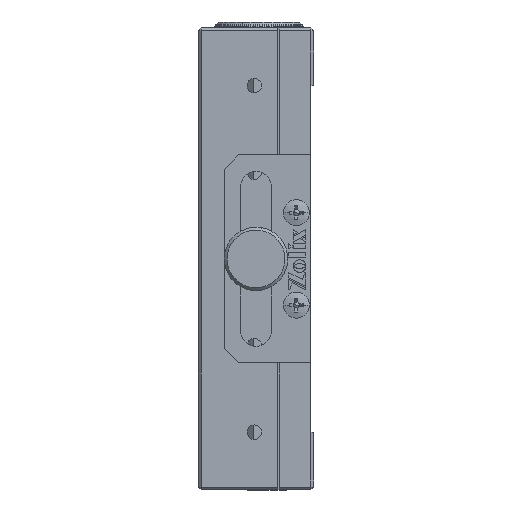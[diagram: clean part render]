
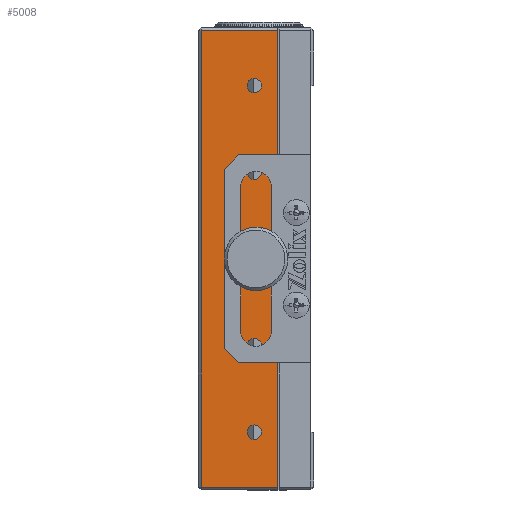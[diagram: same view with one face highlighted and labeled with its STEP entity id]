
A CAD part, left-side view. The second image highlights one B-rep face of the part: STEP entity #5008.
In plain terms, the highlighted planar face has unit normal (-1, 0, 0).
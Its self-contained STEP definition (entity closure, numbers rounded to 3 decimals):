
#327 = CARTESIAN_POINT ( 'NONE',  ( -39.851, -7.935, 52.5 ) ) ;
#468 = DIRECTION ( 'NONE',  ( 0., 0., 1. ) ) ;
#869 = CARTESIAN_POINT ( 'NONE',  ( -39.851, -3.935, 108.75 ) ) ;
#1335 = DIRECTION ( 'NONE',  ( -1., 0., 0. ) ) ;
#1472 = DIRECTION ( 'NONE',  ( 0., 0., 1. ) ) ;
#1601 = DIRECTION ( 'NONE',  ( -1., 0., 0. ) ) ;
#1894 = CARTESIAN_POINT ( 'NONE',  ( -39.851, -3.935, 122.5 ) ) ;
#2214 = CIRCLE ( 'NONE', #3200, 1.25 ) ;
#2425 = ORIENTED_EDGE ( 'NONE', *, *, #4148, .F. ) ;
#3200 = AXIS2_PLACEMENT_3D ( 'NONE', #38845, #6071, #35788 ) ;
#4126 = AXIS2_PLACEMENT_3D ( 'NONE', #1894, #1601, #1472 ) ;
#4148 = EDGE_CURVE ( 'NONE', #39767, #40673, #10802, .T. ) ;
#4379 = VERTEX_POINT ( 'NONE', #20137 ) ;
#5000 = ORIENTED_EDGE ( 'NONE', *, *, #27381, .T. ) ;
#5008 = ADVANCED_FACE ( 'NONE', ( #40205, #13835, #21586, #29341, #12818, #41213 ), #13292, .T. ) ;
#5279 = EDGE_LOOP ( 'NONE', ( #42572, #39759 ) ) ;
#5452 = AXIS2_PLACEMENT_3D ( 'NONE', #20004, #9895, #36469 ) ;
#5607 = CARTESIAN_POINT ( 'NONE',  ( -39.851, -3.935, 106.25 ) ) ;
#5728 = DIRECTION ( 'NONE',  ( 0., 0., 1. ) ) ;
#5783 = EDGE_LOOP ( 'NONE', ( #14713, #33690 ) ) ;
#5838 = CARTESIAN_POINT ( 'NONE',  ( -39.851, -3.935, 77.5 ) ) ;
#5916 = AXIS2_PLACEMENT_3D ( 'NONE', #327, #19920, #468 ) ;
#6071 = DIRECTION ( 'NONE',  ( -1., 0., 0. ) ) ;
#6413 = LINE ( 'NONE', #37884, #39479 ) ;
#7013 = EDGE_CURVE ( 'NONE', #36515, #33752, #33810, .T. ) ;
#7129 = CARTESIAN_POINT ( 'NONE',  ( -39.851, 5.265, 52.5 ) ) ;
#7215 = EDGE_LOOP ( 'NONE', ( #5000, #19225, #15698, #37769 ) ) ;
#7273 = CARTESIAN_POINT ( 'NONE',  ( -39.851, -3.935, 107.5 ) ) ;
#7510 = AXIS2_PLACEMENT_3D ( 'NONE', #18350, #41428, #37980 ) ;
#7554 = AXIS2_PLACEMENT_3D ( 'NONE', #8422, #16224, #39347 ) ;
#8198 = ORIENTED_EDGE ( 'NONE', *, *, #10603, .F. ) ;
#8208 = CARTESIAN_POINT ( 'NONE',  ( -39.851, -3.935, 77.5 ) ) ;
#8246 = CIRCLE ( 'NONE', #4126, 1.25 ) ;
#8422 = CARTESIAN_POINT ( 'NONE',  ( -39.851, -4.235, 92.5 ) ) ;
#8517 = CIRCLE ( 'NONE', #36093, 2.1 ) ;
#9291 = CIRCLE ( 'NONE', #7510, 1.25 ) ;
#9739 = VERTEX_POINT ( 'NONE', #24104 ) ;
#9895 = DIRECTION ( 'NONE',  ( -1., 0., 0. ) ) ;
#10594 = VECTOR ( 'NONE', #21248, 1000. ) ;
#10603 = EDGE_CURVE ( 'NONE', #25029, #22814, #25771, .T. ) ;
#10802 = CIRCLE ( 'NONE', #41813, 1.25 ) ;
#10897 = VERTEX_POINT ( 'NONE', #38712 ) ;
#12162 = LINE ( 'NONE', #7129, #10594 ) ;
#12282 = VECTOR ( 'NONE', #15393, 1000. ) ;
#12818 = FACE_BOUND ( 'NONE', #5279, .T. ) ;
#12997 = CIRCLE ( 'NONE', #7554, 2.1 ) ;
#13292 = PLANE ( 'NONE',  #5916 ) ;
#13367 = AXIS2_PLACEMENT_3D ( 'NONE', #8208, #1335, #21368 ) ;
#13835 = FACE_BOUND ( 'NONE', #30405, .T. ) ;
#13893 = DIRECTION ( 'NONE',  ( -1., 0., 0. ) ) ;
#14087 = DIRECTION ( 'NONE',  ( 0., 0., 1. ) ) ;
#14221 = CARTESIAN_POINT ( 'NONE',  ( -39.851, -7.935, 52.5 ) ) ;
#14561 = EDGE_CURVE ( 'NONE', #28879, #24512, #6413, .T. ) ;
#14649 = CARTESIAN_POINT ( 'NONE',  ( -39.851, -4.235, 90.4 ) ) ;
#14713 = ORIENTED_EDGE ( 'NONE', *, *, #32522, .F. ) ;
#14938 = CIRCLE ( 'NONE', #13367, 1.25 ) ;
#15228 = CARTESIAN_POINT ( 'NONE',  ( -39.851, -3.935, 62.5 ) ) ;
#15305 = EDGE_CURVE ( 'NONE', #24957, #9739, #2214, .T. ) ;
#15393 = DIRECTION ( 'NONE',  ( 0., -1., 0. ) ) ;
#15471 = AXIS2_PLACEMENT_3D ( 'NONE', #7273, #13893, #20829 ) ;
#15659 = DIRECTION ( 'NONE',  ( -1., 0., 0. ) ) ;
#15698 = ORIENTED_EDGE ( 'NONE', *, *, #23134, .T. ) ;
#15845 = ORIENTED_EDGE ( 'NONE', *, *, #20337, .F. ) ;
#16066 = CARTESIAN_POINT ( 'NONE',  ( -39.851, -4.235, 92.5 ) ) ;
#16224 = DIRECTION ( 'NONE',  ( -1., 0., 0. ) ) ;
#18350 = CARTESIAN_POINT ( 'NONE',  ( -39.851, -3.935, 107.5 ) ) ;
#18382 = LINE ( 'NONE', #14221, #36482 ) ;
#18465 = CARTESIAN_POINT ( 'NONE',  ( -39.851, -7.935, 53. ) ) ;
#18823 = DIRECTION ( 'NONE',  ( -1., 0., 0. ) ) ;
#19097 = DIRECTION ( 'NONE',  ( 0., 0., 1. ) ) ;
#19130 = EDGE_CURVE ( 'NONE', #40673, #39767, #20172, .T. ) ;
#19225 = ORIENTED_EDGE ( 'NONE', *, *, #39005, .T. ) ;
#19354 = CARTESIAN_POINT ( 'NONE',  ( -39.851, -3.935, 76.25 ) ) ;
#19413 = DIRECTION ( 'NONE',  ( -1., 0., 0. ) ) ;
#19920 = DIRECTION ( 'NONE',  ( -1., 0., 0. ) ) ;
#20004 = CARTESIAN_POINT ( 'NONE',  ( -39.851, -3.935, 62.5 ) ) ;
#20137 = CARTESIAN_POINT ( 'NONE',  ( -39.851, 5.265, 53. ) ) ;
#20172 = CIRCLE ( 'NONE', #5452, 1.25 ) ;
#20332 = EDGE_CURVE ( 'NONE', #22814, #25029, #9291, .T. ) ;
#20337 = EDGE_CURVE ( 'NONE', #9739, #24957, #8246, .T. ) ;
#20719 = DIRECTION ( 'NONE',  ( 0., 1., 0. ) ) ;
#20829 = DIRECTION ( 'NONE',  ( 0., 0., 1. ) ) ;
#21248 = DIRECTION ( 'NONE',  ( 0., 0., -1. ) ) ;
#21368 = DIRECTION ( 'NONE',  ( 0., 0., 1. ) ) ;
#21555 = CARTESIAN_POINT ( 'NONE',  ( -39.851, -7.935, 53. ) ) ;
#21586 = FACE_BOUND ( 'NONE', #25551, .T. ) ;
#22814 = VERTEX_POINT ( 'NONE', #5607 ) ;
#23134 = EDGE_CURVE ( 'NONE', #34695, #28879, #18382, .T. ) ;
#23736 = CARTESIAN_POINT ( 'NONE',  ( -39.851, -7.935, 132. ) ) ;
#24104 = CARTESIAN_POINT ( 'NONE',  ( -39.851, -3.935, 123.75 ) ) ;
#24154 = VERTEX_POINT ( 'NONE', #14649 ) ;
#24512 = VERTEX_POINT ( 'NONE', #26211 ) ;
#24957 = VERTEX_POINT ( 'NONE', #36365 ) ;
#25029 = VERTEX_POINT ( 'NONE', #869 ) ;
#25551 = EDGE_LOOP ( 'NONE', ( #15845, #28872 ) ) ;
#25696 = CARTESIAN_POINT ( 'NONE',  ( -39.851, -3.935, 78.75 ) ) ;
#25771 = CIRCLE ( 'NONE', #15471, 1.25 ) ;
#26069 = DIRECTION ( 'NONE',  ( 0., 0., 1. ) ) ;
#26211 = CARTESIAN_POINT ( 'NONE',  ( -39.851, 5.265, 132. ) ) ;
#27381 = EDGE_CURVE ( 'NONE', #24512, #4379, #12162, .T. ) ;
#27508 = AXIS2_PLACEMENT_3D ( 'NONE', #5838, #18823, #19097 ) ;
#28872 = ORIENTED_EDGE ( 'NONE', *, *, #15305, .F. ) ;
#28879 = VERTEX_POINT ( 'NONE', #23736 ) ;
#29341 = FACE_BOUND ( 'NONE', #37382, .T. ) ;
#30405 = EDGE_LOOP ( 'NONE', ( #2425, #36169 ) ) ;
#31248 = EDGE_CURVE ( 'NONE', #10897, #24154, #12997, .T. ) ;
#32522 = EDGE_CURVE ( 'NONE', #33752, #36515, #14938, .T. ) ;
#33690 = ORIENTED_EDGE ( 'NONE', *, *, #7013, .F. ) ;
#33752 = VERTEX_POINT ( 'NONE', #25696 ) ;
#33810 = CIRCLE ( 'NONE', #27508, 1.25 ) ;
#34670 = CARTESIAN_POINT ( 'NONE',  ( -39.851, -3.935, 61.25 ) ) ;
#34695 = VERTEX_POINT ( 'NONE', #21555 ) ;
#34980 = LINE ( 'NONE', #18465, #12282 ) ;
#35788 = DIRECTION ( 'NONE',  ( 0., 0., 1. ) ) ;
#36093 = AXIS2_PLACEMENT_3D ( 'NONE', #16066, #19413, #26069 ) ;
#36169 = ORIENTED_EDGE ( 'NONE', *, *, #19130, .F. ) ;
#36365 = CARTESIAN_POINT ( 'NONE',  ( -39.851, -3.935, 121.25 ) ) ;
#36469 = DIRECTION ( 'NONE',  ( 0., 0., 1. ) ) ;
#36482 = VECTOR ( 'NONE', #14087, 1000. ) ;
#36515 = VERTEX_POINT ( 'NONE', #19354 ) ;
#37234 = CARTESIAN_POINT ( 'NONE',  ( -39.851, -3.935, 63.75 ) ) ;
#37382 = EDGE_LOOP ( 'NONE', ( #8198, #41146 ) ) ;
#37769 = ORIENTED_EDGE ( 'NONE', *, *, #14561, .T. ) ;
#37884 = CARTESIAN_POINT ( 'NONE',  ( -39.851, -7.935, 132. ) ) ;
#37980 = DIRECTION ( 'NONE',  ( 0., 0., 1. ) ) ;
#38712 = CARTESIAN_POINT ( 'NONE',  ( -39.851, -4.235, 94.6 ) ) ;
#38845 = CARTESIAN_POINT ( 'NONE',  ( -39.851, -3.935, 122.5 ) ) ;
#39005 = EDGE_CURVE ( 'NONE', #4379, #34695, #34980, .T. ) ;
#39347 = DIRECTION ( 'NONE',  ( 0., 0., 1. ) ) ;
#39479 = VECTOR ( 'NONE', #20719, 1000. ) ;
#39759 = ORIENTED_EDGE ( 'NONE', *, *, #40325, .F. ) ;
#39767 = VERTEX_POINT ( 'NONE', #37234 ) ;
#40205 = FACE_BOUND ( 'NONE', #5783, .T. ) ;
#40325 = EDGE_CURVE ( 'NONE', #24154, #10897, #8517, .T. ) ;
#40673 = VERTEX_POINT ( 'NONE', #34670 ) ;
#41146 = ORIENTED_EDGE ( 'NONE', *, *, #20332, .F. ) ;
#41213 = FACE_OUTER_BOUND ( 'NONE', #7215, .T. ) ;
#41428 = DIRECTION ( 'NONE',  ( -1., 0., 0. ) ) ;
#41813 = AXIS2_PLACEMENT_3D ( 'NONE', #15228, #15659, #5728 ) ;
#42572 = ORIENTED_EDGE ( 'NONE', *, *, #31248, .F. ) ;
